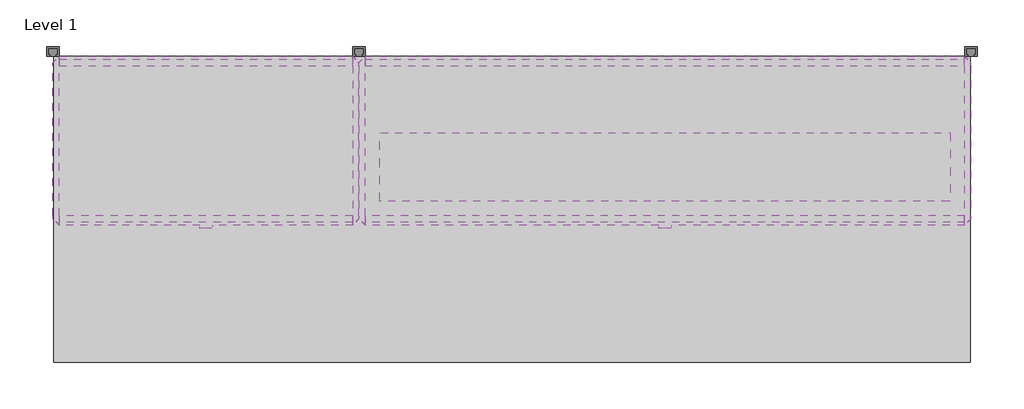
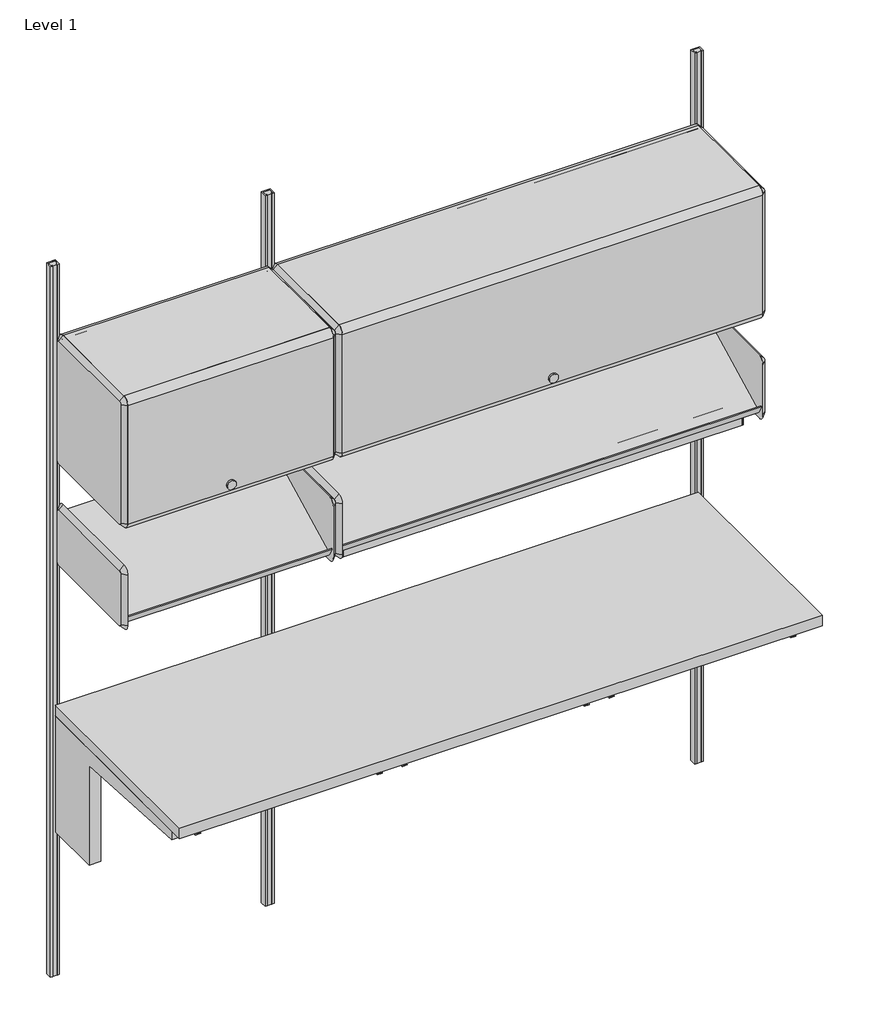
# One storey: 11 furniture elements, 1 light fixture.
"""IFC4 building model written with IfcOpenShell, lengths in millimetres."""

from ifc_helpers import new_model, si_unit, origin, place, context, project, spatial, transform, mapped, element, save
from components import furniture_04291885, furniture_439dfb7c, furniture_03e73c74, furniture_43fda681, furniture_82778d6f, furniture_ebb16344, furniture_fa600c10, furniture_8d228605, furniture_ea425779, light_fixture_48w_for_action_office_09e55f13

model = new_model("IFC4")

# Units and contexts
model_context = context("Model", 3, world=origin())
ifc_project = project(units=[si_unit("LENGTHUNIT", "METRE", prefix="MILLI")], contexts=[model_context])

# Site, building, storey
site = spatial("IfcSite", under=ifc_project)
building = spatial("IfcBuilding", under=site)
storey = spatial("IfcBuildingStorey", under=building, Name="Level 1", Elevation=0.0)

# Furniture
placement = place(None, origin())
furniture_shape = furniture_04291885(model_context)
element("IfcFurniture", 1, ObjectType="HermanMiller_CoStruc_C2141_Heavy-DutyWorkSurface : 24\"D x 72\"W Lam", at=placement, inside=storey, context=model_context, shape_type="MappedRepresentation", body=[
    mapped(furniture_shape, transform((304.8, -196.85, 0.0), x_axis=(1.0, 0.0, 0.0), y_axis=(0.0, 1.0, 0.0), z_axis=(0.0, 0.0, 1.0))),
])
furniture_2_shape = furniture_439dfb7c(model_context)
element("IfcFurniture", 2, ObjectType="HermanMiller_ActionOffice_A3220_B-StyleStorageDisplay : Display 13\"D x 48\"W", at=placement, inside=storey, context=model_context, shape_type="MappedRepresentation", body=[
    mapped(furniture_2_shape, transform((1343.1420045, -200.025, 0.0), x_axis=(1.0, 0.0, 0.0), y_axis=(0.0, 1.0, 0.0), z_axis=(0.0, 0.0, 1.0))),
])
furniture_3_shape = furniture_03e73c74(model_context)
element("IfcFurniture", 3, ObjectType="HermanMiller_ActionOffice_A3220_B-StyleStorageDisplay : Display 13\"D x 24\"W", at=placement, inside=storey, context=model_context, shape_type="MappedRepresentation", body=[
    mapped(furniture_3_shape, transform((428.7420045, -200.025, 0.0), x_axis=(1.0, 0.0, 0.0), y_axis=(0.0, 1.0, 0.0), z_axis=(0.0, 0.0, 1.0))),
])
furniture_4_shape = furniture_43fda681(model_context)
element("IfcFurniture", 4, ObjectType="HermanMiller_CoStruc_C2140R_WorkSurfaceSupport_ComponentAdaptorReady : 14H x 24D x 72W", at=placement, inside=storey, context=model_context, shape_type="MappedRepresentation", body=[
    mapped(furniture_4_shape, transform((914.4, -196.85, 0.0), x_axis=(1.0, 0.0, 0.0), y_axis=(0.0, 1.0, 0.0), z_axis=(0.0, 0.0, 1.0))),
])
furniture_5_shape = furniture_82778d6f(model_context)
element("IfcFurniture", 5, ObjectType="HermanMiller_ActionOffice_B-StyleFlipperDoor : Paint 15-1/2H x 13D x 24W", at=placement, inside=storey, context=model_context, shape_type="MappedRepresentation", body=[
    mapped(furniture_5_shape, transform((304.8, -200.025, 457.2), x_axis=(1.0, 0.0, 0.0), y_axis=(0.0, 1.0, 0.0), z_axis=(0.0, 0.0, 1.0))),
])
furniture_6_shape = furniture_ebb16344(model_context)
element("IfcFurniture", 6, ObjectType="HermanMiller_ActionOffice_B-StyleFlipperDoor : Paint 15-1/2H x 13D x 48W", at=placement, inside=storey, context=model_context, shape_type="MappedRepresentation", body=[
    mapped(furniture_6_shape, transform((1219.2, -200.025, 457.2), x_axis=(1.0, 0.0, 0.0), y_axis=(0.0, 1.0, 0.0), z_axis=(0.0, 0.0, 1.0))),
])
furniture_7_shape = furniture_fa600c10(model_context)
element("IfcFurniture", 7, ObjectType="HermanMiller_CoStruc_B-StyleShelf : 15-1/2H x 13D x 24W", at=placement, inside=storey, context=model_context, shape_type="MappedRepresentation", body=[
    mapped(furniture_7_shape, transform((428.7420045, -200.025, 457.2), x_axis=(1.0, 0.0, 0.0), y_axis=(0.0, 1.0, 0.0), z_axis=(0.0, 0.0, 1.0))),
])
furniture_8_shape = furniture_8d228605(model_context)
element("IfcFurniture", 8, ObjectType="HermanMiller_CoStruc_B-StyleShelf : 15-1/2H x 13D x 48W", at=placement, inside=storey, context=model_context, shape_type="MappedRepresentation", body=[
    mapped(furniture_8_shape, transform((1343.1420045, -200.025, 457.2), x_axis=(1.0, 0.0, 0.0), y_axis=(0.0, 1.0, 0.0), z_axis=(0.0, 0.0, 1.0))),
])
furniture_9_shape = furniture_ea425779(model_context)
element("IfcFurniture", 9, ObjectType="HermanMiller_ActionOffice_AO213_WallStrip : 84\"H", at=placement, inside=storey, context=model_context, shape_type="MappedRepresentation", body=[
    mapped(furniture_9_shape, transform((1829.241101, 0.3584451, 0.0), x_axis=(1.0, 0.0, 0.0), y_axis=(0.0, 1.0, 0.0), z_axis=(0.0, 0.0, 1.0))),
])
element("IfcFurniture", 10, ObjectType="HermanMiller_ActionOffice_AO213_WallStrip : 84\"H", at=placement, inside=storey, context=model_context, shape_type="MappedRepresentation", body=[
    mapped(furniture_9_shape, transform((609.6, 0.0, 0.0), x_axis=(1.0, 0.0, 0.0), y_axis=(0.0, 1.0, 0.0), z_axis=(0.0, 0.0, 1.0))),
])
element("IfcFurniture", 11, ObjectType="HermanMiller_ActionOffice_AO213_WallStrip : 84\"H", at=placement, inside=storey, context=model_context, shape_type="MappedRepresentation", body=[
    mapped(furniture_9_shape, transform((0.0, 0.0, 0.0), x_axis=(1.0, 0.0, 0.0), y_axis=(0.0, 1.0, 0.0), z_axis=(0.0, 0.0, 1.0))),
])

# Light fixture
light_fixture_48w_for_action_office_shape = light_fixture_48w_for_action_office_09e55f13(model_context)
element("IfcLightFixture", 12, ObjectType="HermanMiller_SupplementalProducts_G6170_EUnderShelfLEDTaskLight : 48W for Action Office", at=placement, inside=storey, context=model_context, shape_type="MappedRepresentation", body=[
    mapped(light_fixture_48w_for_action_office_shape, transform((1219.2, -239.776, 124.8679666), x_axis=(1.0, 0.0, 0.0), y_axis=(0.0, 1.0, 0.0), z_axis=(0.0, 0.0, 1.0))),
])

save(model, "model.ifc")
